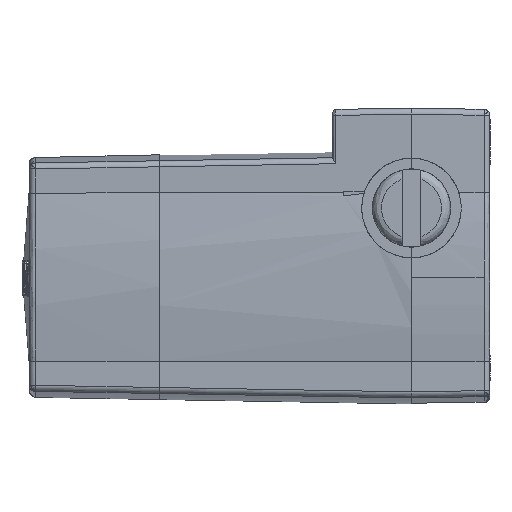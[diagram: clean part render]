
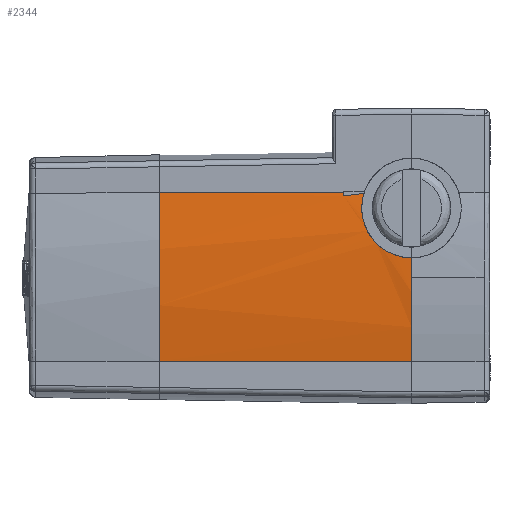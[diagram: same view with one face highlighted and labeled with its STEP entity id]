
A CAD part, left-side view. The second image highlights one B-rep face of the part: STEP entity #2344.
In plain terms, the highlighted conical face has half-angle 1 degrees and reference radius 197 mm.
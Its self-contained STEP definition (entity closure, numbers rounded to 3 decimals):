
#2128 = VERTEX_POINT ( 'NONE', #8989 ) ;
#2239 = EDGE_CURVE ( 'NONE', #2284, #2255, #9209, .T. ) ;
#2255 = VERTEX_POINT ( 'NONE', #9228 ) ;
#2284 = VERTEX_POINT ( 'NONE', #9314 ) ;
#2311 = ORIENTED_EDGE ( 'NONE', *, *, #2367, .T. ) ;
#2312 = VERTEX_POINT ( 'NONE', #9385 ) ;
#2314 = ORIENTED_EDGE ( 'NONE', *, *, #2374, .T. ) ;
#2327 = ORIENTED_EDGE ( 'NONE', *, *, #2364, .T. ) ;
#2328 = ORIENTED_EDGE ( 'NONE', *, *, #2239, .T. ) ;
#2334 = EDGE_CURVE ( 'NONE', #2128, #2312, #9409, .T. ) ;
#2341 = ORIENTED_EDGE ( 'NONE', *, *, #2343, .T. ) ;
#2343 = EDGE_CURVE ( 'NONE', #2255, #2376, #9400, .T. ) ;
#2344 = ADVANCED_FACE ( 'NONE', ( #9435 ), #9448, .T. ) ;
#2346 = ORIENTED_EDGE ( 'NONE', *, *, #2334, .T. ) ;
#2347 = EDGE_CURVE ( 'NONE', #2312, #2284, #9455, .T. ) ;
#2348 = ORIENTED_EDGE ( 'NONE', *, *, #2347, .T. ) ;
#2356 = VERTEX_POINT ( 'NONE', #9425 ) ;
#2364 = EDGE_CURVE ( 'NONE', #2392, #2128, #9422, .T. ) ;
#2367 = EDGE_CURVE ( 'NONE', #2376, #2356, #9457, .T. ) ;
#2371 = EDGE_LOOP ( 'NONE', ( #2314, #2327, #2346, #2348, #2328, #2341, #2311 ) ) ;
#2374 = EDGE_CURVE ( 'NONE', #2356, #2392, #9540, .T. ) ;
#2376 = VERTEX_POINT ( 'NONE', #9486 ) ;
#2392 = VERTEX_POINT ( 'NONE', #9555 ) ;
#8989 = CARTESIAN_POINT ( 'NONE',  ( -39.607, -1., 27.972 ) ) ;
#9203 = CARTESIAN_POINT ( 'NONE',  ( -40., -23.5, -28. ) ) ;
#9204 = CARTESIAN_POINT ( 'NONE',  ( -39.514, 4.333, -27.965 ) ) ;
#9205 = CARTESIAN_POINT ( 'NONE',  ( -39.028, 32.167, -27.931 ) ) ;
#9206 = CARTESIAN_POINT ( 'NONE',  ( -38.543, 60., -27.896 ) ) ;
#9209 = B_SPLINE_CURVE_WITH_KNOTS ( 'NONE', 3,
 ( #9206, #9205, #9204, #9203 ),
 .UNSPECIFIED., .F., .F.,
 ( 4, 4 ),
 ( 0., 0.084 ),
 .UNSPECIFIED. ) ;
#9228 = CARTESIAN_POINT ( 'NONE',  ( -40., -23.5, -28. ) ) ;
#9314 = CARTESIAN_POINT ( 'NONE',  ( -38.543, 60., -27.896 ) ) ;
#9385 = CARTESIAN_POINT ( 'NONE',  ( -38.543, 60., 27.896 ) ) ;
#9394 = CARTESIAN_POINT ( 'NONE',  ( -38.543, 60., 27.896 ) ) ;
#9395 = CARTESIAN_POINT ( 'NONE',  ( -38.897, 39.667, 27.921 ) ) ;
#9396 = CARTESIAN_POINT ( 'NONE',  ( -39.252, 19.333, 27.947 ) ) ;
#9397 = CARTESIAN_POINT ( 'NONE',  ( -39.607, -1., 27.972 ) ) ;
#9398 = CARTESIAN_POINT ( 'NONE',  ( 155., -23.5, 0. ) ) ;
#9399 = AXIS2_PLACEMENT_3D ( 'NONE', #9398, #9437, #9436 ) ;
#9400 = CIRCLE ( 'NONE', #9399, 197. ) ;
#9409 = B_SPLINE_CURVE_WITH_KNOTS ( 'NONE', 3,
 ( #9397, #9396, #9395, #9394 ),
 .UNSPECIFIED., .F., .F.,
 ( 4, 4 ),
 ( 0., 0.061 ),
 .UNSPECIFIED. ) ;
#9422 = CIRCLE ( 'NONE', #9472, 196.607 ) ;
#9425 = CARTESIAN_POINT ( 'NONE',  ( -39.762, -7.719, 27.718 ) ) ;
#9426 = DIRECTION ( 'NONE',  ( 1., 0., 0. ) ) ;
#9432 = DIRECTION ( 'NONE',  ( 1., 0., 0. ) ) ;
#9434 = CARTESIAN_POINT ( 'NONE',  ( 155., 60., 0. ) ) ;
#9435 = FACE_OUTER_BOUND ( 'NONE', #2371, .T. ) ;
#9436 = DIRECTION ( 'NONE',  ( 1., 0., 0. ) ) ;
#9437 = DIRECTION ( 'NONE',  ( 0., 1., 0. ) ) ;
#9440 = DIRECTION ( 'NONE',  ( 0., -1., 0. ) ) ;
#9442 = AXIS2_PLACEMENT_3D ( 'NONE', #9434, #9440, #9426 ) ;
#9443 = CARTESIAN_POINT ( 'NONE',  ( 155., -23.5, 0. ) ) ;
#9448 = CONICAL_SURFACE ( 'NONE', #9456, 197., 0.017 ) ;
#9450 = DIRECTION ( 'NONE',  ( 0., -1., 0. ) ) ;
#9455 = CIRCLE ( 'NONE', #9442, 195.543 ) ;
#9456 = AXIS2_PLACEMENT_3D ( 'NONE', #9443, #9450, #9432 ) ;
#9457 = B_SPLINE_CURVE_WITH_KNOTS ( 'NONE', 3,
 ( #9526, #9525, #9524, #9523, #9522, #9521, #9520, #9519, #9518, #9517, #9516, #9515, #9514, #9513, #9512, #9511, #9510, #9509, #9508, #9507, #9506, #9505, #9504, #9503, #9502, #9501, #9500, #9499, #9498, #9497, #9496, #9495 ),
 .UNSPECIFIED., .F., .F.,
 ( 4, 2, 2, 2, 2, 2, 2, 2, 2, 2, 2, 2, 2, 2, 2, 4 ),
 ( 0., 0.004, 0.006, 0.008, 0.01, 0.011, 0.012, 0.015, 0.016, 0.017, 0.019, 0.021, 0.023, 0.027, 0.029, 0.031 ),
 .UNSPECIFIED. ) ;
#9459 = DIRECTION ( 'NONE',  ( 1., 0., 0. ) ) ;
#9460 = DIRECTION ( 'NONE',  ( 0., 1., 0. ) ) ;
#9461 = CARTESIAN_POINT ( 'NONE',  ( 155., -1., 0. ) ) ;
#9472 = AXIS2_PLACEMENT_3D ( 'NONE', #9461, #9460, #9459 ) ;
#9486 = CARTESIAN_POINT ( 'NONE',  ( -41.896, -23.5, 6.4 ) ) ;
#9495 = CARTESIAN_POINT ( 'NONE',  ( -39.762, -7.719, 27.718 ) ) ;
#9496 = CARTESIAN_POINT ( 'NONE',  ( -39.846, -7.531, 27.103 ) ) ;
#9497 = CARTESIAN_POINT ( 'NONE',  ( -39.929, -7.38, 26.479 ) ) ;
#9498 = CARTESIAN_POINT ( 'NONE',  ( -40.093, -7.151, 25.216 ) ) ;
#9499 = CARTESIAN_POINT ( 'NONE',  ( -40.173, -7.073, 24.574 ) ) ;
#9500 = CARTESIAN_POINT ( 'NONE',  ( -40.406, -6.952, 22.657 ) ) ;
#9501 = CARTESIAN_POINT ( 'NONE',  ( -40.55, -7.02, 21.386 ) ) ;
#9502 = CARTESIAN_POINT ( 'NONE',  ( -40.751, -7.343, 19.49 ) ) ;
#9503 = CARTESIAN_POINT ( 'NONE',  ( -40.816, -7.49, 18.858 ) ) ;
#9504 = CARTESIAN_POINT ( 'NONE',  ( -40.936, -7.852, 17.628 ) ) ;
#9505 = CARTESIAN_POINT ( 'NONE',  ( -40.993, -8.068, 17.027 ) ) ;
#9506 = CARTESIAN_POINT ( 'NONE',  ( -41.101, -8.567, 15.852 ) ) ;
#9507 = CARTESIAN_POINT ( 'NONE',  ( -41.151, -8.851, 15.279 ) ) ;
#9508 = CARTESIAN_POINT ( 'NONE',  ( -41.222, -9.33, 14.44 ) ) ;
#9509 = CARTESIAN_POINT ( 'NONE',  ( -41.245, -9.499, 14.163 ) ) ;
#9510 = CARTESIAN_POINT ( 'NONE',  ( -41.29, -9.852, 13.622 ) ) ;
#9511 = CARTESIAN_POINT ( 'NONE',  ( -41.311, -10.035, 13.358 ) ) ;
#9512 = CARTESIAN_POINT ( 'NONE',  ( -41.414, -10.988, 12.067 ) ) ;
#9513 = CARTESIAN_POINT ( 'NONE',  ( -41.484, -11.862, 11.132 ) ) ;
#9514 = CARTESIAN_POINT ( 'NONE',  ( -41.56, -13.095, 10.09 ) ) ;
#9515 = CARTESIAN_POINT ( 'NONE',  ( -41.574, -13.35, 9.887 ) ) ;
#9516 = CARTESIAN_POINT ( 'NONE',  ( -41.603, -13.867, 9.5 ) ) ;
#9517 = CARTESIAN_POINT ( 'NONE',  ( -41.616, -14.13, 9.315 ) ) ;
#9518 = CARTESIAN_POINT ( 'NONE',  ( -41.655, -14.933, 8.784 ) ) ;
#9519 = CARTESIAN_POINT ( 'NONE',  ( -41.678, -15.486, 8.463 ) ) ;
#9520 = CARTESIAN_POINT ( 'NONE',  ( -41.722, -16.629, 7.885 ) ) ;
#9521 = CARTESIAN_POINT ( 'NONE',  ( -41.743, -17.219, 7.628 ) ) ;
#9522 = CARTESIAN_POINT ( 'NONE',  ( -41.781, -18.436, 7.183 ) ) ;
#9523 = CARTESIAN_POINT ( 'NONE',  ( -41.798, -19.056, 6.997 ) ) ;
#9524 = CARTESIAN_POINT ( 'NONE',  ( -41.846, -20.928, 6.551 ) ) ;
#9525 = CARTESIAN_POINT ( 'NONE',  ( -41.873, -22.201, 6.4 ) ) ;
#9526 = CARTESIAN_POINT ( 'NONE',  ( -41.896, -23.5, 6.4 ) ) ;
#9535 = CARTESIAN_POINT ( 'NONE',  ( -39.762, -1., 26.873 ) ) ;
#9536 = CARTESIAN_POINT ( 'NONE',  ( -39.762, -3.206, 27.155 ) ) ;
#9537 = CARTESIAN_POINT ( 'NONE',  ( -39.762, -5.445, 27.437 ) ) ;
#9538 = CARTESIAN_POINT ( 'NONE',  ( -39.762, -7.719, 27.718 ) ) ;
#9540 = B_SPLINE_CURVE_WITH_KNOTS ( 'NONE', 3,
 ( #9538, #9537, #9536, #9535 ),
 .UNSPECIFIED., .F., .F.,
 ( 4, 4 ),
 ( 0., 1. ),
 .UNSPECIFIED. ) ;
#9555 = CARTESIAN_POINT ( 'NONE',  ( -39.762, -1., 26.873 ) ) ;
